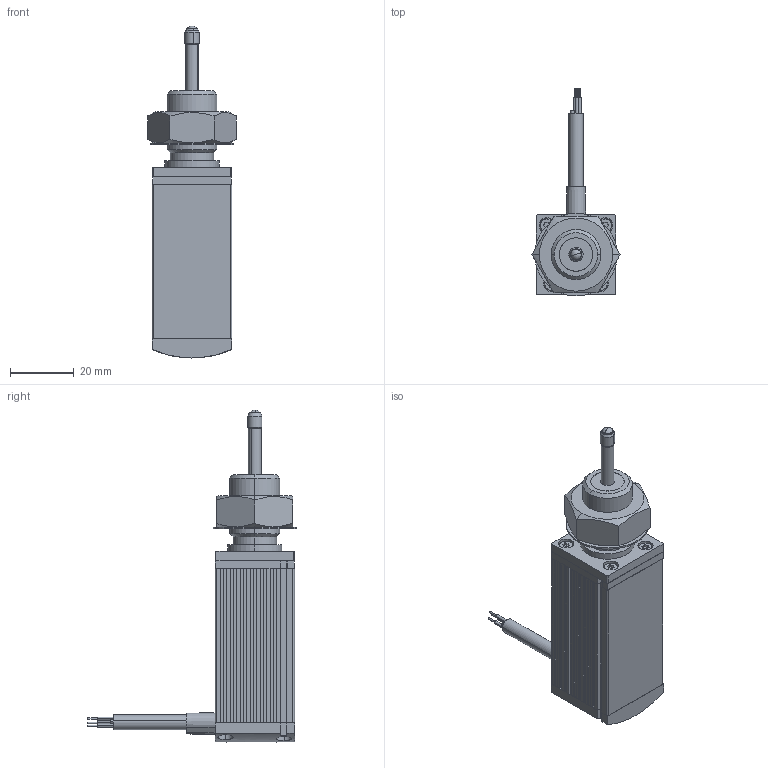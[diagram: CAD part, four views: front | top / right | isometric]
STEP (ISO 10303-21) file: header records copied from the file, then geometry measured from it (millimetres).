
FILE_DESCRIPTION (( 'STEP AP214' ), '1' );
FILE_NAME ('FTI_10.STEP', '2008-12-01T08:35:03', ( 'novotechnik' ), ( 'novotechnik' ), 'SwSTEP 2.0', 'SolidWorks 2008', '' );
FILE_SCHEMA (( 'AUTOMOTIVE_DESIGN' ));
Length unit declared in the file: millimetre
Products named in the file (4): FTI_10_Housing_Standard; FTI_10_Zentralbefestigung_Standard; FTI_10_Bewegungseinheit_Standard; FTI_10
Assembly tree (3 placements, depth 2):
  FTI_10
    FTI_10_Zentralbefestigung_Standard
    FTI_10_Bewegungseinheit_Standard
    FTI_10_Housing_Standard
Bounding box: 27.71 x 65.5 x 104.4 mm (x, y, z)
Volume: 43252.4 mm3; surface area: 22677.2 mm2
Topology: 26 solids, 26 shells, 992 faces, 2419 edges, 1463 vertices
Faces by surface type: cylinder 426, plane 360, torus 84, cone 72, sphere 50
Entity records: 40436 total; most frequent: CARTESIAN_POINT 5376, DIRECTION 5352, ORIENTED_EDGE 4734, EDGE_CURVE 2367, AXIS2_PLACEMENT_3D 2023, VERTEX_POINT 1463, LINE 1306, VECTOR 1306
